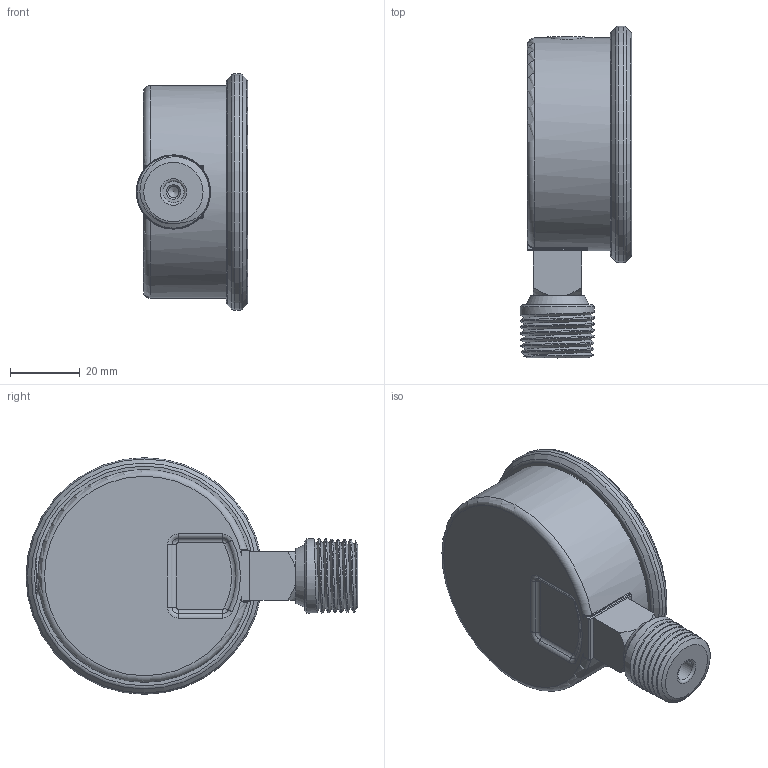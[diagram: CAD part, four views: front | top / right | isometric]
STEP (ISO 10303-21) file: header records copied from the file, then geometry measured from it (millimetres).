
FILE_DESCRIPTION(/* description */ (''),/* implementation_level */ '2;1');
FILE_NAME(/* name */ 'PM25C1A2.stp',/* time_stamp */ '2024-09-17T10:20:36-05:00',/* author */ ('mpinzon'),/* organization */ (''),/* preprocessor_version */ 'ST-DEVELOPER v19.2',/* originating_system */ 'Autodesk Inventor 2024',/* authorisation */ '');
FILE_SCHEMA (('AUTOMOTIVE_DESIGN { 1 0 10303 214 3 1 1 }'));
Length unit declared in the file: inch
Products named in the file (10): PM25 Quarter bottom connect.ipt; PM25 BOTTOM CONNECT BASE_GPI; DIAL SCREW_GPI_CBM; 10001 dial pointer stop_GPI; PM25 BEZEL_GPI; PM25 Dia 2l; PR25 NEEDLE SCREW; PM25 DIAL GPI; PM25 QUARTER INCH NPT_GPI2; 10913 - 0.25 NPT TO 0.50 NPT WELD-ON ADAPTER PM
Assembly tree (11 placements, depth 2):
  PM25 Quarter bottom connect.ipt
    PM25 BOTTOM CONNECT BASE_GPI
    DIAL SCREW_GPI_CBM  x2
    10001 dial pointer stop_GPI
    PM25 BEZEL_GPI
    PM25 Dia 2l
    PR25 NEEDLE SCREW  x2
    PM25 DIAL GPI
    PM25 QUARTER INCH NPT_GPI2
    10913 - 0.25 NPT TO 0.50 NPT WELD-ON ADAPTER PM
Bounding box: 32.03 x 95.51 x 68.07 mm (x, y, z)
Volume: 33692.7 mm3; surface area: 30711.7 mm2
Topology: 11 solids, 11 shells, 673 faces, 1751 edges, 1156 vertices
Faces by surface type: plane 498, cylinder 112, cone 25, torus 17, bspline 16, sphere 5
Full cylindrical faces by diameter (mm): 1.016 x3, 2.54 x5, 2.635 x1, 3.242 x1, 4.064 x1, 4.445 x2, 6.096 x1, 10.668 x1, 12.751 x8, 13.716 x1, 21.336 x1, 55.88 x1, 57.359 x1, 58.42 x1, 60.96 x1, 61.214 x1, 68.072 x1
Entity records: 27952 total; most frequent: CARTESIAN_POINT 11440, ORIENTED_EDGE 3384, DIRECTION 3203, EDGE_CURVE 1692, LINE 1303, VECTOR 1303, VERTEX_POINT 1119, AXIS2_PLACEMENT_3D 950
